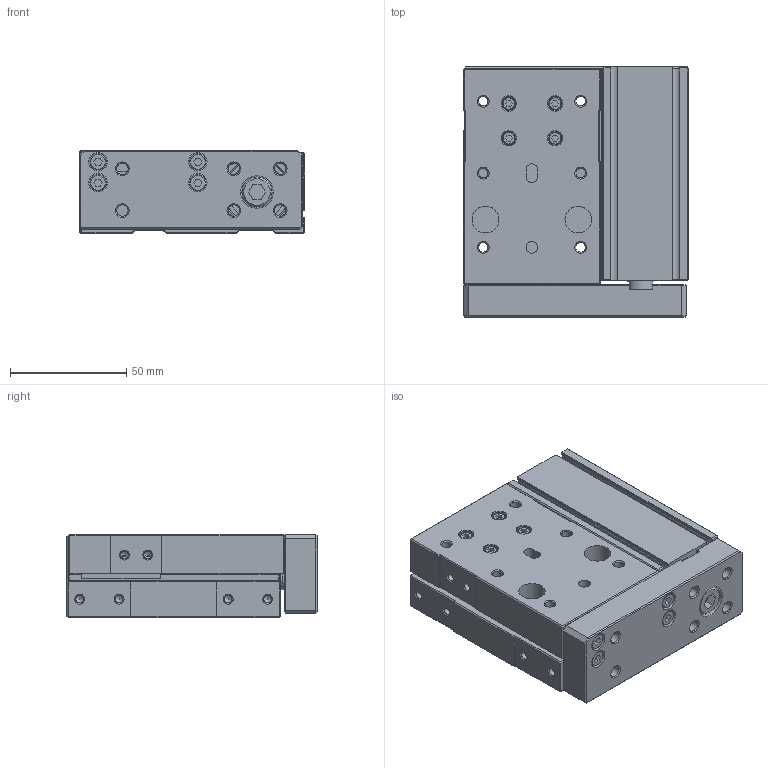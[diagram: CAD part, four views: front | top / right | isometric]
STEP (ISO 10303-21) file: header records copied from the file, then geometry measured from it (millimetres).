
FILE_DESCRIPTION((''),'2;1');
FILE_NAME('I:\3D電子目錄\氣缸\FMR(L)\FMR(L)\FMR25x30.stp','2007-10-15T16:08:03',('Administrator'),(''),'Autodesk Inventor 11','Autodesk Inventor 11','');
FILE_SCHEMA(('AUTOMOTIVE_DESIGN { 1 0 10303 214 1 1 1 1 }'));
Length unit declared in the file: millimetre
Products named in the file (1): FMR25x30
Bounding box: 97 x 107.8 x 36 mm (x, y, z)
Volume: 288030.8 mm3; surface area: 80303.1 mm2
Topology: 14 solids, 14 shells, 522 faces, 1199 edges, 752 vertices
Faces by surface type: plane 330, bspline 95, cylinder 49, cone 48
Full cylindrical faces by diameter (mm): 1.3 x2, 2 x2, 4.2 x1, 5 x2, 5.5 x4, 7 x5, 8 x1, 8.5 x1, 10 x2, 11.5 x2, 12 x3, 13 x1, 14 x1, 16 x1, 21.5 x2, 25 x3, 28 x4, 29.6 x2
Entity records: 14455 total; most frequent: CARTESIAN_POINT 3667, DIRECTION 2119, ORIENTED_EDGE 1980, EDGE_CURVE 990, EDGE_LOOP 787, AXIS2_PLACEMENT_3D 715, VERTEX_POINT 699, VECTOR 689
